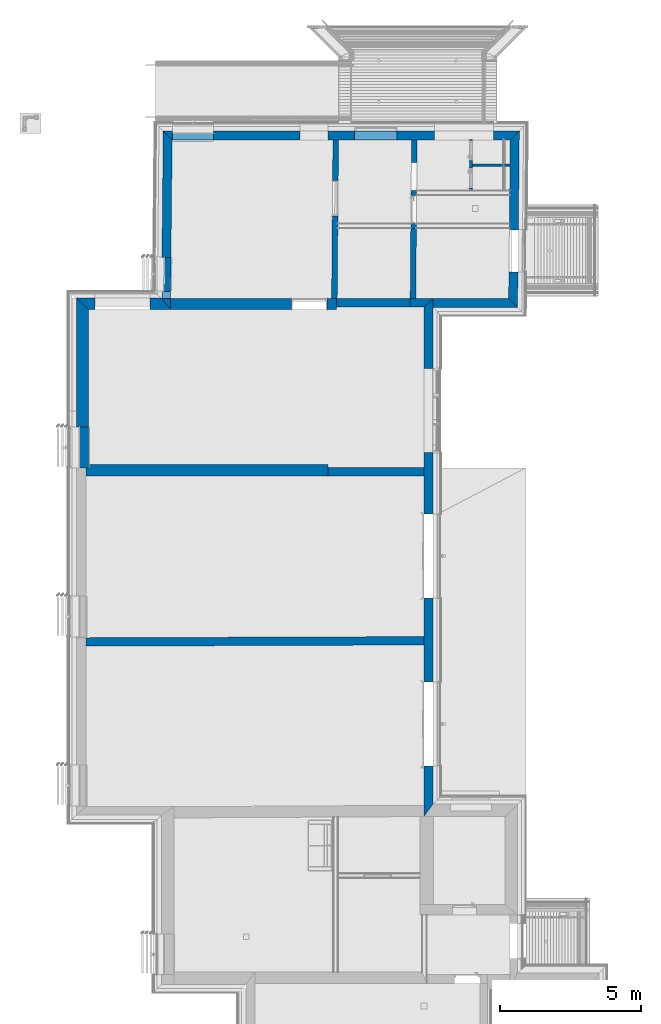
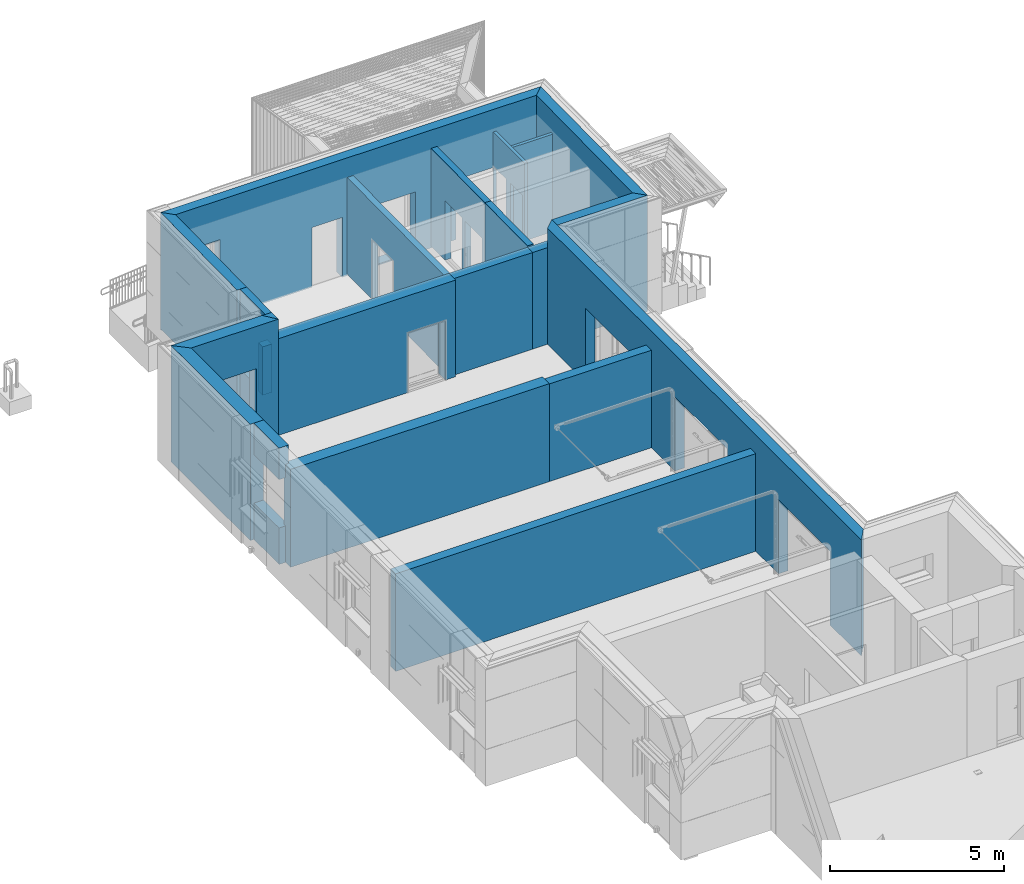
# One storey, part 25 of 418: 22 walls, 21 openings.
"""IFC2X3 building model written with IfcOpenShell, lengths in millimetres."""

from ifc_helpers import new_model, entity, si_unit, converted_unit, derived_unit, money_unit, direction, frame, origin_with_axes, origin_2d_with_axis, place, context, subcontext, project, spatial, polyline, rectangle, outline, extrude, material, layer, layer_set, layer_usage, type_object, element, save


model = new_model("IFC2X3")

# Units and contexts
model_context = context("Model", 3, precision=0.01, world=origin_with_axes(), true_north=direction((0.0, 1.0)))
body_context = subcontext(model_context, "Body", "Model", "MODEL_VIEW")
ifc_project = project(units=[si_unit("LENGTHUNIT", "METRE", prefix="MILLI"), si_unit("AREAUNIT", "SQUARE_METRE"), si_unit("VOLUMEUNIT", "CUBIC_METRE"), converted_unit("PLANEANGLEUNIT", "DEGREE", entity("IfcPlaneAngleMeasure", 0.0174532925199), si_unit("PLANEANGLEUNIT", "RADIAN"), dimensions=[0, 0, 0, 0, 0, 0, 0]), si_unit("SOLIDANGLEUNIT", "STERADIAN"), money_unit("EUR"), converted_unit("TIMEUNIT", "Year", entity("IfcTimeMeasure", 31556926.0), si_unit("TIMEUNIT", "SECOND"), dimensions=[0, 0, 1, 0, 0, 0, 0]), si_unit("MASSUNIT", "GRAM", prefix="KILO"), si_unit("THERMODYNAMICTEMPERATUREUNIT", "DEGREE_CELSIUS"), si_unit("LUMINOUSINTENSITYUNIT", "LUMEN"), si_unit("ENERGYUNIT", "JOULE", prefix="MEGA"), derived_unit("THERMALCONDUCTANCEUNIT", [(si_unit("POWERUNIT", "WATT"), 1), (si_unit("LENGTHUNIT", "METRE"), -1), (si_unit("THERMODYNAMICTEMPERATUREUNIT", "KELVIN"), -1)]), derived_unit("SPECIFICHEATCAPACITYUNIT", [(si_unit("ENERGYUNIT", "JOULE"), 1), (si_unit("MASSUNIT", "GRAM", prefix="KILO"), -1), (si_unit("THERMODYNAMICTEMPERATUREUNIT", "KELVIN"), -1)]), derived_unit("MASSDENSITYUNIT", [(si_unit("MASSUNIT", "GRAM", prefix="KILO"), 1), (si_unit("VOLUMEUNIT", "CUBIC_METRE"), -1)])], contexts=[model_context])

# Site, building, storey
site_placement = place(None, origin_with_axes())
site = spatial("IfcSite", under=ifc_project, at=site_placement, Name="Paldiski mnt 245/1, Tallinn, Harjumaa", CompositionType="COMPLEX")
building_placement = place(site_placement, origin_with_axes())
building = spatial("IfcBuilding", under=site, at=building_placement, Name="RKAS Hoone üldnimetus (kasutust iseloomustav) -> IFC Project Manager -> SOLIBRI", CompositionType="ELEMENT")
storey_placement = place(building_placement, origin_with_axes())
storey = spatial("IfcBuildingStorey", under=building, at=storey_placement, Name="Esimene korrus", CompositionType="ELEMENT", Elevation=0.0)

# Wall, opening
ifc_material_1 = material(Name="Olemasolev silikaltsiitplokk")
ifc_layer_1 = layer(ifc_material_1, 390.0, ventilated="UNKNOWN")
ifc_layer_set_1 = layer_set([ifc_layer_1], Name="Olemasolev silikaltsiitplokk 390")
ifc_layer_usage_1 = layer_usage(ifc_layer_set_1, "AXIS2", "NEGATIVE", 0.0)
wall_type_1 = type_object("IfcWallType", Name="Olemasolev silikaltsiitplokk 390", PredefinedType="NOTDEFINED")
wall_1_placement = place(storey_placement, frame((-59386.0680847, 30139.8287244, 0.0), z_axis=(0.0, 0.0, 1.0), x_axis=(1.0, 0.0, 0.0)))
wall_1 = element("IfcWallStandardCase", 1, at=wall_1_placement, inside=storey, type_object=wall_type_1, material=ifc_layer_usage_1, Name="SS-02", context=body_context, shape_type="SweptSolid", body=[
    extrude(outline(polyline([(-3.93191533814, -390.0), (5896.06808466, -390.0), (5896.06808466, 0.0), (0.0, 0.0), (-3.93191533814, -390.0)])), origin_with_axes(), (0.0, 0.0, 1.0), 3400.80687192),
])
opening_1_placement = place(wall_1_placement, frame((4926.11364736, -1.13686837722e-10, 0.0), z_axis=(0.0, 0.0, 1.0), x_axis=(1.0, 0.0, 0.0)))
element("IfcOpeningElement", 2, at=opening_1_placement, cuts=wall_1, Name="SU-12v", context=body_context, shape_type="SweptSolid", body=[
    extrude(rectangle(XDim=1250.0, YDim=2100.0, at=origin_2d_with_axis()), frame((0.0, -390.0, 1050.0), z_axis=(0.0, 1.0, 0.0), x_axis=(1.0, 0.0, 0.0)), (0.0, 0.0, 1.0), 1170.0),
    extrude(rectangle(XDim=1324.0, YDim=2137.0, at=origin_2d_with_axis()), frame((0.0, -390.0, 1068.5), z_axis=(0.0, 1.0, 0.0), x_axis=(1.0, 0.0, 0.0)), (0.0, 0.0, -1.0), 390.0),
    extrude(rectangle(XDim=1324.0, YDim=2137.0, at=origin_2d_with_axis()), frame((0.0, 1.13686837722e-10, 1068.5), z_axis=(0.0, -1.0, 0.0), x_axis=(1.0, 0.0, 0.0)), (0.0, 0.0, -1.0), 390.0),
])

ifc_layer_2 = layer(ifc_material_1, 440.0, ventilated="UNKNOWN")
ifc_layer_set_2 = layer_set([ifc_layer_2], Name="Olemasolev silikaltsiitplokk 440")
ifc_layer_usage_2 = layer_usage(ifc_layer_set_2, "AXIS2", "POSITIVE", 0.0)
wall_type_2 = type_object("IfcWallType", Name="Olemasolev silikaltsiitplokk 440", PredefinedType="NOTDEFINED")
wall_2_placement = place(storey_placement, frame((-62290.0, 24129.3310636, 0.0), z_axis=(0.0, 0.0, 1.0), x_axis=(0.0, 1.0, 0.0)))
wall_2 = element("IfcWallStandardCase", 3, at=wall_2_placement, inside=storey, type_object=wall_type_2, material=ifc_layer_usage_2, Name="VS-03", context=body_context, shape_type="SweptSolid", body=[
    extrude(outline(polyline([(0.0, 0.0), (5620.49766071, 0.0), (6020.49766071, 440.0), (0.0, 440.0), (0.0, 0.0)])), origin_with_axes(), (0.0, 0.0, 1.0), 4090.0),
])
opening_2_placement = place(wall_2_placement, frame((-24129.3310636, -62290.0, 0.0), z_axis=(0.0, 0.0, 1.0), x_axis=(0.0, -1.0, 0.0)))
element("IfcOpeningElement", 4, at=opening_2_placement, cuts=wall_2, Name="VS-03", ObjectType="OPENING", context=body_context, shape_type="SweptSolid", body=[
    extrude(rectangle(XDim=1450.0, YDim=4140.0001049, at=origin_2d_with_axis()), frame((-62290.0, 24854.3310636, 2019.99994755), z_axis=(1.0, 0.0, 0.0), x_axis=(0.0, 1.0, 0.0)), (0.0, 0.0, -1.0), 880.0),
])

# Walls
ifc_material_2 = material(Name="BAUROC CLASSIC 3 MPa kergplokk")
ifc_layer_3 = layer(ifc_material_2, 300.0, ventilated="UNKNOWN")
ifc_layer_set_3 = layer_set([ifc_layer_3], Name="BAUROC CLASSIC 3 MPa kergplokk 300")
ifc_layer_usage_3 = layer_usage(ifc_layer_set_3, "AXIS2", "POSITIVE", 0.0)
wall_type_3 = type_object("IfcWallType", Name="BAUROC CLASSIC 3 MPa kergplokk 300", PredefinedType="NOTDEFINED")
wall_3_placement = place(storey_placement, frame((-59383.502776, 30139.8287244, 1280.0), z_axis=(0.0, 0.0, 1.0), x_axis=(0.0, 1.0, 0.0)))
element("IfcWallStandardCase", 5, at=wall_3_placement, inside=storey, type_object=wall_type_3, material=ifc_layer_usage_3, Name="VS-08", context=body_context, shape_type="SweptSolid", body=[
    extrude(outline(polyline([(0.0, 0.0), (254.455201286, 0.0), (254.455201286, 300.0), (0.0, 300.0), (0.0, 0.0)])), origin_with_axes(), (0.0, 0.0, 1.0), 1700.0),
])
ifc_layer_4 = layer(ifc_material_1, 200.0, ventilated="UNKNOWN")
ifc_layer_set_4 = layer_set([ifc_layer_4], Name="Olemasolev silikaltsiitplokk 200")
ifc_layer_usage_4 = layer_usage(ifc_layer_set_4, "AXIS2", "NEGATIVE", 0.0)
wall_type_4 = type_object("IfcWallType", Name="Olemasolev silikaltsiitplokk 200", PredefinedType="NOTDEFINED")
wall_4_placement = place(storey_placement, frame((-50879.9544371, 30139.8287499, 0.0), z_axis=(0.0, 0.0, 1.0), x_axis=(0.00837214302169, 0.999964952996, 0.0)))
element("IfcWallStandardCase", 6, at=wall_4_placement, inside=storey, type_object=wall_type_4, material=ifc_layer_usage_4, Name="SS-03", context=body_context, shape_type="SweptSolid", body=[
    extrude(outline(polyline([(1.67446174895, -200.0), (2490.48479156, -200.0), (2490.48479156, 0.0), (-2.55411407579e-05, 0.0), (1.67446174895, -200.0)])), origin_with_axes(), (0.0, 0.0, 1.0), 3451.03338617),
])

# Wall, opening
ifc_layer_usage_5 = layer_usage(ifc_layer_set_4, "AXIS2", "NEGATIVE", 0.0)
wall_5_placement = place(storey_placement, frame((-53669.9544373, 30139.8287244, 0.0), z_axis=(0.0, 0.0, 1.0), x_axis=(0.00837214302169, 0.999964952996, 0.0)))
wall_5 = element("IfcWallStandardCase", 7, at=wall_5_placement, inside=storey, type_object=wall_type_4, material=ifc_layer_usage_5, Name="SS-03", context=body_context, shape_type="SweptSolid", body=[
    extrude(outline(polyline([(1.67448729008, -200.0), (5631.87180884, -200.0), (5630.19732155, 0.0), (0.0, 0.0), (1.67448729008, -200.0)])), origin_with_axes(), (0.0, 0.0, 1.0), 3400.80687192),
])
opening_3_placement = place(wall_5_placement, frame((3556.69180579, 0.0, 0.0), z_axis=(0.0, 0.0, 1.0), x_axis=(1.0, 0.0, 0.0)))
element("IfcOpeningElement", 8, at=opening_3_placement, cuts=wall_5, Name="SU-12v", context=body_context, shape_type="SweptSolid", body=[
    extrude(rectangle(XDim=1250.0, YDim=2100.0, at=origin_2d_with_axis()), frame((0.0, 200.0, 1050.0), z_axis=(0.0, -1.0, 0.0), x_axis=(-1.0, 0.0, 0.0)), (0.0, 0.0, 1.0), 600.0),
    extrude(rectangle(XDim=1324.0, YDim=2137.0, at=origin_2d_with_axis()), frame((0.0, 0.0, 1068.5), z_axis=(0.0, -1.0, 0.0), x_axis=(-1.0, 0.0, 0.0)), (0.0, 0.0, -1.0), 200.0),
    extrude(rectangle(XDim=1324.0, YDim=2137.0, at=origin_2d_with_axis()), frame((0.0, -200.0, 1068.5), z_axis=(0.0, 1.0, 0.0), x_axis=(-1.0, 0.0, 0.0)), (0.0, 0.0, -1.0), 200.0),
])

# Wall, openings
ifc_layer_usage_6 = layer_usage(ifc_layer_set_4, "AXIS2", "NEGATIVE", 0.0)
wall_6_placement = place(storey_placement, frame((-50859.1037422, 32630.2262574, 0.0), z_axis=(0.0, 0.0, 1.0), x_axis=(0.00837214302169, 0.999964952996, 0.0)))
wall_6 = element("IfcWallStandardCase", 9, at=wall_6_placement, inside=storey, type_object=wall_type_4, material=ifc_layer_usage_6, Name="SS-03", context=body_context, shape_type="SweptSolid", body=[
    extrude(outline(polyline([(0.0, -200.0), (3141.38699174, -200.0), (3139.71250445, 0.0), (0.0, 0.0), (0.0, -200.0)])), origin_with_axes(), (0.0, 0.0, 1.0), 3451.03338617),
])
opening_4_placement = place(wall_6_placement, frame((671.317946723, 0.0, 0.0), z_axis=(0.0, 0.0, 1.0), x_axis=(1.0, 0.0, 0.0)))
element("IfcOpeningElement", 10, at=opening_4_placement, cuts=wall_6, Name="SU-05p", context=body_context, shape_type="SweptSolid", body=[
    extrude(rectangle(XDim=1000.0, YDim=2100.0, at=origin_2d_with_axis()), frame((0.0, -200.0, 1050.0), z_axis=(0.0, -1.0, 0.0), x_axis=(-1.0, 0.0, 0.0)), (0.0, 0.0, -1.0), 600.0),
    extrude(rectangle(XDim=1074.0, YDim=2137.0, at=origin_2d_with_axis()), frame((0.0, -200.0, 1068.5), z_axis=(0.0, -1.0, 0.0), x_axis=(-1.0, 0.0, 0.0)), (0.0, 0.0, 1.0), 200.0),
    extrude(rectangle(XDim=1074.0, YDim=2137.0, at=origin_2d_with_axis()), frame((0.0, 0.0, 1068.5), z_axis=(0.0, 1.0, 0.0), x_axis=(-1.0, 0.0, 0.0)), (0.0, 0.0, 1.0), 200.0),
])
opening_5_placement = place(wall_6_placement, frame((1841.32390492, 0.0, 0.0), z_axis=(0.0, 0.0, 1.0), x_axis=(1.0, 0.0, 0.0)))
element("IfcOpeningElement", 11, at=opening_5_placement, cuts=wall_6, Name="AVA", context=body_context, shape_type="SweptSolid", body=[
    extrude(rectangle(XDim=1000.0, YDim=2100.0, at=origin_2d_with_axis()), frame((0.0, 0.0, 1050.0), z_axis=(0.0, -1.0, 0.0), x_axis=(1.0, 0.0, 0.0)), (0.0, 0.0, -1.0), 200.0),
    extrude(rectangle(XDim=1000.0, YDim=2100.0, at=origin_2d_with_axis()), frame((0.0, 0.0, 1050.0), z_axis=(0.0, 1.0, 0.0), x_axis=(1.0, 0.0, 0.0)), (0.0, 0.0, -1.0), 200.0),
])

# Wall
ifc_material_3 = material(Name="BAUROC Acoustic")
ifc_layer_5 = layer(ifc_material_3, 100.0, ventilated="UNKNOWN")
ifc_layer_set_5 = layer_set([ifc_layer_5], Name="SS-11")
ifc_layer_usage_7 = layer_usage(ifc_layer_set_5, "AXIS2", "POSITIVE", -100.0)
wall_type_5 = type_object("IfcWallType", Name="SS-11 100", PredefinedType="NOTDEFINED")
wall_7_placement = place(storey_placement, frame((-47338.294549, 34819.9150652, -130.0), z_axis=(0.0, 0.0, 1.0), x_axis=(-1.0, 0.0, 0.0)))
element("IfcWallStandardCase", 12, at=wall_7_placement, inside=storey, type_object=wall_type_5, material=ifc_layer_usage_7, Name="SS-11", context=body_context, shape_type="SweptSolid", body=[
    extrude(outline(polyline([(0.0, -100.0), (1332.73688864, -100.0), (1332.73688864, 0.0), (0.0, 0.0), (0.0, -100.0)])), origin_with_axes(), (0.0, 0.0, 1.0), 3430.0),
])

# Wall, openings
ifc_layer_usage_8 = layer_usage(ifc_layer_set_5, "AXIS2", "POSITIVE", -100.0)
wall_8_placement = place(storey_placement, frame((-48671.0314376, 35789.8287244, -130.0), z_axis=(0.0, 0.0, 1.0), x_axis=(0.0, -1.0, 0.0)))
wall_8 = element("IfcWallStandardCase", 13, at=wall_8_placement, inside=storey, type_object=wall_type_5, material=ifc_layer_usage_8, Name="SS-11", context=body_context, shape_type="SweptSolid", body=[
    extrude(outline(polyline([(0.0, -100.0), (1820.0, -100.0), (1820.0, 0.0), (0.0, 0.0), (0.0, -100.0)])), origin_with_axes(), (0.0, 0.0, 1.0), 3430.0),
])
opening_6_placement = place(wall_8_placement, frame((400.0, 0.0, 130.0), z_axis=(0.0, 0.0, 1.0), x_axis=(1.0, 0.0, 0.0)))
element("IfcOpeningElement", 14, at=opening_6_placement, cuts=wall_8, Name="SU-17v", context=body_context, shape_type="SweptSolid", body=[
    extrude(rectangle(XDim=700.0, YDim=2100.0, at=origin_2d_with_axis()), frame((0.0, -100.0, 1050.0), z_axis=(0.0, 1.0, 0.0), x_axis=(-1.0, 0.0, 0.0)), (0.0, 0.0, 1.0), 300.0),
    extrude(rectangle(XDim=774.0, YDim=2137.0, at=origin_2d_with_axis()), frame((0.0, -100.0, 1068.5), z_axis=(0.0, 1.0, 0.0), x_axis=(-1.0, 0.0, 0.0)), (0.0, 0.0, -1.0), 100.0),
])
opening_7_placement = place(wall_8_placement, frame((1369.91365911, 0.0, 130.0), z_axis=(0.0, 0.0, 1.0), x_axis=(1.0, 0.0, 0.0)))
element("IfcOpeningElement", 15, at=opening_7_placement, cuts=wall_8, Name="SU-17p", context=body_context, shape_type="SweptSolid", body=[
    extrude(rectangle(XDim=700.0, YDim=2100.0, at=origin_2d_with_axis()), frame((0.0, -100.0, 1050.0), z_axis=(0.0, -1.0, 0.0), x_axis=(1.0, 0.0, 0.0)), (0.0, 0.0, -1.0), 300.0),
    extrude(rectangle(XDim=774.0, YDim=2137.0, at=origin_2d_with_axis()), frame((0.0, -100.0, 1068.5), z_axis=(0.0, -1.0, 0.0), x_axis=(1.0, 0.0, 0.0)), (0.0, 0.0, 1.0), 100.0),
])

# Walls
ifc_layer_6 = layer(ifc_material_1, 300.0, ventilated="UNKNOWN")
ifc_layer_set_6 = layer_set([ifc_layer_6], Name="Olemasolev silikaltsiitplokk 300")
ifc_layer_usage_9 = layer_usage(ifc_layer_set_6, "AXIS2", "NEGATIVE", 0.0)
wall_type_6 = type_object("IfcWallType", Name="Olemasolev silikaltsiitplokk 300", PredefinedType="NOTDEFINED")
wall_9_placement = place(storey_placement, frame((-53790.0, 24139.8287244, 0.0), z_axis=(0.0, 0.0, 1.0), x_axis=(1.0, 0.0, 0.0)))
element("IfcWallStandardCase", 16, at=wall_9_placement, inside=storey, type_object=wall_type_6, material=ifc_layer_usage_9, Name="SS-02", context=body_context, shape_type="SweptSolid", body=[
    extrude(outline(polyline([(0.0, -300.0), (3400.0, -300.0), (3400.0, 0.0), (0.0, 0.0), (0.0, -300.0)])), origin_with_axes(), (0.0, 0.0, 1.0), 3432.41919496),
])
ifc_layer_usage_10 = layer_usage(ifc_layer_set_6, "AXIS2", "NEGATIVE", 0.0)
wall_10_placement = place(storey_placement, frame((-62390.0, 18096.4054606, 0.0), z_axis=(0.0, 0.0, 1.0), x_axis=(0.999993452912, 0.00361858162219, 0.0)))
element("IfcWallStandardCase", 17, at=wall_10_placement, inside=storey, type_object=wall_type_6, material=ifc_layer_usage_10, Name="SS-02", context=body_context, shape_type="SweptSolid", body=[
    extrude(outline(polyline([(-1.08558159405, -300.0), (11999.6254134, -300.0), (11999.6254134, 0.0), (0.0, 0.0), (-1.08558159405, -300.0)])), origin_with_axes(), (0.0, 0.0, 1.0), 3432.41919522),
])
ifc_layer_usage_11 = layer_usage(ifc_layer_set_6, "AXIS2", "NEGATIVE", 0.0)
wall_11_placement = place(storey_placement, frame((-53490.0, 30139.8287244, 0.0), z_axis=(0.0, 0.0, 1.0), x_axis=(1.0, 0.0, 0.0)))
element("IfcWallStandardCase", 18, at=wall_11_placement, inside=storey, type_object=wall_type_6, material=ifc_layer_usage_11, Name="SS-02", context=body_context, shape_type="SweptSolid", body=[
    extrude(outline(polyline([(0.0, -300.0), (2610.04556292, -300.0), (2610.04556292, 0.0), (0.0, 0.0), (0.0, -300.0)])), origin_with_axes(), (0.0, 0.0, 1.0), 3400.80687192),
])
ifc_layer_usage_12 = layer_usage(ifc_layer_set_6, "AXIS2", "NEGATIVE", 0.0)
wall_12_placement = place(storey_placement, frame((-50879.9544371, 30139.8287244, 0.0), z_axis=(0.0, 0.0, 1.0), x_axis=(1.0, 0.0, 0.0)))
element("IfcWallStandardCase", 19, at=wall_12_placement, inside=storey, type_object=wall_type_6, material=ifc_layer_usage_12, Name="SS-02", context=body_context, shape_type="SweptSolid", body=[
    extrude(outline(polyline([(0.0, -300.0), (489.954437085, -300.0), (809.954437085, 0.0), (0.0, 0.0), (0.0, -300.0)])), origin_with_axes(), (0.0, 0.0, 1.0), 3400.80687192),
])
ifc_layer_7 = layer(ifc_material_1, 400.0, ventilated="UNKNOWN")
ifc_layer_set_7 = layer_set([ifc_layer_7], Name="Olemasolev silikaltsiitplokk 400")
ifc_layer_usage_13 = layer_usage(ifc_layer_set_7, "AXIS2", "NEGATIVE", 0.0)
wall_type_7 = type_object("IfcWallType", Name="Olemasolev silikaltsiitplokk 400", PredefinedType="NOTDEFINED")
wall_13_placement = place(storey_placement, frame((-62390.0000031, 24239.3310636, 0.0), z_axis=(0.0, 0.0, 1.0), x_axis=(1.0, 0.0, 0.0)))
element("IfcWallStandardCase", 20, at=wall_13_placement, inside=storey, type_object=wall_type_7, material=ifc_layer_usage_13, Name="SS-02", context=body_context, shape_type="SweptSolid", body=[
    extrude(outline(polyline([(0.0, -400.0), (8600.00000307, -400.0), (8600.00000307, 0.0), (0.0, 0.0), (0.0, -400.0)])), origin_with_axes(), (0.0, 0.0, 1.0), 3444.21219275),
])

# Wall, opening
ifc_layer_usage_14 = layer_usage(ifc_layer_set_7, "AXIS2", "POSITIVE", 0.0)
wall_14_placement = place(storey_placement, frame((-62290.0, 29749.8287244, 0.0), z_axis=(0.0, 0.0, 1.0), x_axis=(1.0, 0.0, 0.0)))
wall_14 = element("IfcWallStandardCase", 21, at=wall_14_placement, inside=storey, type_object=wall_type_7, material=ifc_layer_usage_14, Name="VS-03", context=body_context, shape_type="SweptSolid", body=[
    extrude(outline(polyline([(0.0, 0.0), (2900.0, 0.0), (2584.01647115, 400.0), (-440.0, 400.0), (0.0, 0.0)])), origin_with_axes(), (0.0, 0.0, 1.0), 4090.0),
])
opening_8_placement = place(wall_14_placement, frame((1205.0, 0.0, 0.0), z_axis=(0.0, 0.0, 1.0), x_axis=(1.0, 0.0, 0.0)))
element("IfcOpeningElement", 22, at=opening_8_placement, cuts=wall_14, Name="AVA", context=body_context, shape_type="SweptSolid", body=[
    extrude(rectangle(XDim=1950.0, YDim=2600.0, at=origin_2d_with_axis()), frame((0.0, 400.0, 1300.0), z_axis=(0.0, -1.0, 0.0), x_axis=(1.0, 0.0, 0.0)), (0.0, 0.0, -1.0), 400.0),
    extrude(rectangle(XDim=1950.0, YDim=2600.0, at=origin_2d_with_axis()), frame((0.0, 400.0, 1300.0), z_axis=(0.0, 1.0, 0.0), x_axis=(1.0, 0.0, 0.0)), (0.0, 0.0, -1.0), 400.0),
])

ifc_layer_8 = layer(ifc_material_1, 320.0, ventilated="UNKNOWN")
ifc_layer_set_8 = layer_set([ifc_layer_8], Name="Olemasolev silikaltsiitplokk 320")
ifc_layer_usage_15 = layer_usage(ifc_layer_set_8, "AXIS2", "NEGATIVE", 0.0)
wall_type_8 = type_object("IfcWallType", Name="Olemasolev silikaltsiitplokk 320", PredefinedType="NOTDEFINED")
wall_15_placement = place(storey_placement, frame((-47385.4582399, 30139.8287244, 0.0), z_axis=(0.0, 0.0, 1.0), x_axis=(0.0100813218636, 0.999949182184, 0.0)))
wall_15 = element("IfcWallStandardCase", 23, at=wall_15_placement, inside=storey, type_object=wall_type_8, material=ifc_layer_usage_15, Name="VS-03", context=body_context, shape_type="SweptSolid", body=[
    extrude(outline(polyline([(-316.790075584, -320.0), (5953.52856832, -320.0), (5630.28611885, 0.0), (0.0, 0.0), (-316.790075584, -320.0)])), origin_with_axes(), (0.0, 0.0, 1.0), 4090.0),
])
opening_9_placement = place(wall_15_placement, frame((1690.52409606, 0.0, 0.0), z_axis=(0.0, 0.0, 1.0), x_axis=(1.0, 0.0, 0.0)))
element("IfcOpeningElement", 24, at=opening_9_placement, cuts=wall_15, Name="AVA", context=body_context, shape_type="SweptSolid", body=[
    extrude(rectangle(XDim=1500.0, YDim=2100.0, at=origin_2d_with_axis()), frame((0.0, -320.0, 1050.0), z_axis=(0.0, 1.0, 0.0), x_axis=(1.0, 0.0, 0.0)), (0.0, 0.0, -1.0), 320.0),
    extrude(rectangle(XDim=1500.0, YDim=2100.0, at=origin_2d_with_axis()), frame((0.0, -320.0, 1050.0), z_axis=(0.0, -1.0, 0.0), x_axis=(1.0, 0.0, 0.0)), (0.0, 0.0, -1.0), 320.0),
])

ifc_layer_usage_16 = layer_usage(ifc_layer_set_8, "AXIS2", "POSITIVE", 0.0)
wall_16_placement = place(storey_placement, frame((-59390.0, 29749.8287244, 0.0), z_axis=(0.0, 0.0, 1.0), x_axis=(0.0100813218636, 0.999949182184, 0.0)))
wall_16 = element("IfcWallStandardCase", 25, at=wall_16_placement, inside=storey, type_object=wall_type_8, material=ifc_layer_usage_16, Name="VS-03", context=body_context, shape_type="SweptSolid", body=[
    extrude(outline(polyline([(0.0, 0.0), (6020.3059388, 0.0), (6337.09601439, 320.0), (396.794141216, 320.0), (0.0, 0.0)])), origin_with_axes(), (0.0, 0.0, 1.0), 4090.0),
])
opening_10_placement = place(wall_16_placement, frame((-29149.5871975, -59686.8995286, 0.0), z_axis=(0.0, 0.0, 1.0), x_axis=(0.0100813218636, -0.999949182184, 0.0)))
element("IfcOpeningElement", 26, at=opening_10_placement, cuts=wall_16, Name="VS-03", ObjectType="OPENING", context=body_context, shape_type="SweptSolid", body=[
    extrude(rectangle(XDim=1452.89791746, YDim=4140.0001049, at=origin_2d_with_axis()), frame((-59378.6729148, 30873.3430585, 2070.00005245), z_axis=(0.999949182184, -0.0100813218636, 0.0), x_axis=(0.0100813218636, 0.999949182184, 0.0)), (0.0, 0.0, -1.0), 719.347325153),
])

# Wall
ifc_layer_usage_17 = layer_usage(ifc_layer_set_8, "AXIS2", "NEGATIVE", 0.0)
wall_17_placement = place(storey_placement, frame((-50070.0, 30139.8287244, 0.0), z_axis=(0.0, 0.0, 1.0), x_axis=(1.0, 0.0, 0.0)))
element("IfcWallStandardCase", 27, at=wall_17_placement, inside=storey, type_object=wall_type_8, material=ifc_layer_usage_17, Name="VS-03", context=body_context, shape_type="SweptSolid", body=[
    extrude(outline(polyline([(0.0, -320.0), (3001.33183571, -320.0), (2684.54176013, 0.0), (0.0, 0.0), (0.0, -320.0)])), origin_with_axes(), (0.0, 0.0, 1.0), 4090.0),
])

# Wall, openings
ifc_layer_usage_18 = layer_usage(ifc_layer_set_8, "AXIS2", "NEGATIVE", 0.0)
wall_18_placement = place(storey_placement, frame((-50390.0, 11749.8287244, 0.0), z_axis=(0.0, 0.0, 1.0), x_axis=(0.0, 1.0, 0.0)))
wall_18 = element("IfcWallStandardCase", 28, at=wall_18_placement, inside=storey, type_object=wall_type_8, material=ifc_layer_usage_18, Name="VS-03", context=body_context, shape_type="SweptSolid", body=[
    extrude(outline(polyline([(440.0, -320.0), (18390.0, -320.0), (18090.0, 0.0), (0.0, 0.0), (440.0, -320.0)])), origin_with_axes(), (0.0, 0.0, 1.0), 4090.0),
])
opening_11_placement = place(wall_18_placement, frame((3289.99803586, 0.0, 0.0), z_axis=(0.0, 0.0, 1.0), x_axis=(1.0, 0.0, 0.0)))
element("IfcOpeningElement", 29, at=opening_11_placement, cuts=wall_18, Name="AVA", context=body_context, shape_type="SweptSolid", body=[
    extrude(rectangle(XDim=2980.0, YDim=2600.0, at=origin_2d_with_axis()), frame((0.0, -19.9999999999, 1300.0), z_axis=(0.0, 1.0, 0.0), x_axis=(1.0, 0.0, 0.0)), (0.0, 0.0, -1.0), 620.0),
    extrude(rectangle(XDim=2980.0, YDim=2600.0, at=origin_2d_with_axis()), frame((0.0, -19.9999999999, 1300.0), z_axis=(0.0, -1.0, 0.0), x_axis=(1.0, 0.0, 0.0)), (0.0, 0.0, -1.0), 620.0),
])
opening_12_placement = place(wall_18_placement, frame((9246.99991489, -2.0605739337e-10, 0.0), z_axis=(0.0, 0.0, 1.0), x_axis=(1.0, 0.0, 0.0)))
element("IfcOpeningElement", 30, at=opening_12_placement, cuts=wall_18, Name="AVA", context=body_context, shape_type="SweptSolid", body=[
    extrude(rectangle(XDim=2980.0, YDim=2600.0, at=origin_2d_with_axis()), frame((0.0, -19.9999999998, 1300.0), z_axis=(0.0, 1.0, 0.0), x_axis=(1.0, 0.0, 0.0)), (0.0, 0.0, -1.0), 620.0),
    extrude(rectangle(XDim=2980.0, YDim=2600.0, at=origin_2d_with_axis()), frame((0.0, -19.9999999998, 1300.0), z_axis=(0.0, -1.0, 0.0), x_axis=(1.0, 0.0, 0.0)), (0.0, 0.0, -1.0), 620.0),
])
opening_13_placement = place(wall_18_placement, frame((14406.9999149, -3.19744231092e-10, 0.0), z_axis=(0.0, 0.0, 1.0), x_axis=(1.0, 0.0, 0.0)))
element("IfcOpeningElement", 31, at=opening_13_placement, cuts=wall_18, Name="AVA", context=body_context, shape_type="SweptSolid", body=[
    extrude(rectangle(XDim=2980.0, YDim=2600.0, at=origin_2d_with_axis()), frame((0.0, -19.9999999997, 1300.0), z_axis=(0.0, 1.0, 0.0), x_axis=(1.0, 0.0, 0.0)), (0.0, 0.0, -1.0), 620.0),
    extrude(rectangle(XDim=2980.0, YDim=2600.0, at=origin_2d_with_axis()), frame((0.0, -19.9999999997, 1300.0), z_axis=(0.0, -1.0, 0.0), x_axis=(1.0, 0.0, 0.0)), (0.0, 0.0, -1.0), 620.0),
])

# Wall, opening
ifc_layer_usage_19 = layer_usage(ifc_layer_set_8, "AXIS2", "NEGATIVE", 0.0)
wall_19_placement = place(storey_placement, frame((-62289.9999508, 25579.3310636, 0.0), z_axis=(0.0, 0.0, 1.0), x_axis=(0.0, -1.0, 0.0)))
wall_19 = element("IfcWallStandardCase", 32, at=wall_19_placement, inside=storey, type_object=wall_type_8, material=ifc_layer_usage_19, Name="VS-05", context=body_context, shape_type="SweptSolid", body=[
    extrude(outline(polyline([(0.0, -320.0), (1450.0, -320.0), (1450.0, 0.0), (0.0, 0.0), (0.0, -320.0)])), origin_with_axes(), (0.0, 0.0, 1.0), 4090.0),
])
opening_14_placement = place(wall_19_placement, frame((724.999997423, 0.0, 1280.0), z_axis=(0.0, 0.0, 1.0), x_axis=(1.0, 0.0, 0.0)))
element("IfcOpeningElement", 33, at=opening_14_placement, cuts=wall_19, Name="AVA", context=body_context, shape_type="SweptSolid", body=[
    extrude(rectangle(XDim=1450.0, YDim=1700.0, at=origin_2d_with_axis()), frame((0.0, -220.0, 850.0), z_axis=(0.0, 1.0, 0.0), x_axis=(1.0, 0.0, 0.0)), (0.0, 0.0, -1.0), 420.0),
    extrude(rectangle(XDim=1450.0, YDim=1700.0, at=origin_2d_with_axis()), frame((0.0, -220.0, 850.0), z_axis=(0.0, -1.0, 0.0), x_axis=(1.0, 0.0, 0.0)), (0.0, 0.0, -1.0), 420.0),
])

# Wall, openings
ifc_layer_usage_20 = layer_usage(ifc_layer_set_8, "AXIS2", "POSITIVE", 0.0)
wall_20_placement = place(storey_placement, frame((-59329.3073581, 35769.8287244, -50.0), z_axis=(0.0, 0.0, 1.0), x_axis=(1.0, 0.0, 0.0)))
wall_20 = element("IfcWallStandardCase", 34, at=wall_20_placement, inside=storey, type_object=wall_type_8, material=ifc_layer_usage_20, Name="VS-03", context=body_context, shape_type="SweptSolid", body=[
    extrude(outline(polyline([(0.0, 0.0), (12000.6098448, 0.0), (12323.8522943, 320.0), (-316.790075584, 320.0), (0.0, 0.0)])), origin_with_axes(), (0.0, 0.0, 1.0), 4140.0),
])
opening_15_placement = place(wall_20_placement, frame((745.000032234, 0.0, 1030.0), z_axis=(0.0, 0.0, 1.0), x_axis=(1.0, 0.0, 0.0)))
element("IfcOpeningElement", 35, at=opening_15_placement, cuts=wall_20, Name="AVA", context=body_context, shape_type="SweptSolid", body=[
    extrude(rectangle(XDim=1450.0, YDim=1700.0, at=origin_2d_with_axis()), frame((0.0, 10.0, 850.0), z_axis=(0.0, 1.0, 0.0), x_axis=(1.0, 0.0, 0.0)), (0.0, 0.0, -1.0), 330.0),
    extrude(rectangle(XDim=1450.0, YDim=1700.0, at=origin_2d_with_axis()), frame((0.0, 10.0, 850.0), z_axis=(0.0, -1.0, 0.0), x_axis=(1.0, 0.0, 0.0)), (0.0, 0.0, -1.0), 330.0),
])
opening_16_placement = place(wall_20_placement, frame((5040.60984479, -1.13686837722e-10, 0.0), z_axis=(0.0, 0.0, 1.0), x_axis=(1.0, 0.0, 0.0)))
element("IfcOpeningElement", 36, at=opening_16_placement, cuts=wall_20, Name="AVA", context=body_context, shape_type="SweptSolid", body=[
    extrude(rectangle(XDim=1000.0, YDim=2100.0, at=origin_2d_with_axis()), frame((0.0, 320.0, 1050.0), z_axis=(0.0, -1.0, 0.0), x_axis=(1.0, 0.0, 0.0)), (0.0, 0.0, -1.0), 320.0),
    extrude(rectangle(XDim=1000.0, YDim=2100.0, at=origin_2d_with_axis()), frame((0.0, 320.0, 1050.0), z_axis=(0.0, 1.0, 0.0), x_axis=(1.0, 0.0, 0.0)), (0.0, 0.0, -1.0), 320.0),
])
opening_17_placement = place(wall_20_placement, frame((7230.18644847, -1.63424829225e-10, 50.0), z_axis=(0.0, 0.0, 1.0), x_axis=(1.0, 0.0, 0.0)))
element("IfcOpeningElement", 37, at=opening_17_placement, cuts=wall_20, Name="AVA", context=body_context, shape_type="SweptSolid", body=[
    extrude(rectangle(XDim=1500.0, YDim=2100.0, at=origin_2d_with_axis()), frame((0.0, 320.0, 1050.0), z_axis=(0.0, -1.0, 0.0), x_axis=(1.0, 0.0, 0.0)), (0.0, 0.0, -1.0), 320.0),
    extrude(rectangle(XDim=1500.0, YDim=2100.0, at=origin_2d_with_axis()), frame((0.0, 320.0, 1050.0), z_axis=(0.0, 1.0, 0.0), x_axis=(1.0, 0.0, 0.0)), (0.0, 0.0, -1.0), 320.0),
])
opening_18_placement = place(wall_20_placement, frame((10360.1864485, -2.41584530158e-10, 0.0), z_axis=(0.0, 0.0, 1.0), x_axis=(1.0, 0.0, 0.0)))
element("IfcOpeningElement", 38, at=opening_18_placement, cuts=wall_20, Name="AVA", context=body_context, shape_type="SweptSolid", body=[
    extrude(rectangle(XDim=2080.0, YDim=2100.0, at=origin_2d_with_axis()), frame((0.0, 320.0, 1050.0), z_axis=(0.0, -1.0, 0.0), x_axis=(1.0, 0.0, 0.0)), (0.0, 0.0, -1.0), 320.0),
    extrude(rectangle(XDim=2080.0, YDim=2100.0, at=origin_2d_with_axis()), frame((0.0, 320.0, 1050.0), z_axis=(0.0, 1.0, 0.0), x_axis=(1.0, 0.0, 0.0)), (0.0, 0.0, -1.0), 320.0),
])
opening_19_placement = place(wall_20_placement, frame((59329.3073581, -35769.8287244, 50.0), z_axis=(0.0, 0.0, 1.0), x_axis=(1.0, 0.0, 0.0)))
element("IfcOpeningElement", 39, at=opening_19_placement, cuts=wall_20, Name="AVA", ObjectType="OPENING", context=body_context, shape_type="SweptSolid", body=[
    extrude(rectangle(XDim=1450.0, YDim=2570.0, at=origin_2d_with_axis()), frame((-58584.3073581, 35769.8287244, 1415.0), z_axis=(0.0, -1.0, 0.0), x_axis=(1.0, 0.0, 0.0)), (0.0, 0.0, -1.0), 640.0),
])

# Wall, opening
ifc_layer_9 = layer(ifc_material_1, 220.0, ventilated="UNKNOWN")
ifc_layer_set_9 = layer_set([ifc_layer_9], Name="Olemasolev silikaltsiitplokk 220")
ifc_layer_usage_21 = layer_usage(ifc_layer_set_9, "AXIS2", "NEGATIVE", 0.0)
wall_type_9 = type_object("IfcWallType", Name="Olemasolev silikaltsiitplokk 220", PredefinedType="NOTDEFINED")
wall_21_placement = place(storey_placement, frame((-57859.3073259, 35769.8286373, 0.0), z_axis=(0.0, 0.0, 1.0), x_axis=(-1.0, 0.0, 0.0)))
wall_21 = element("IfcWallStandardCase", 40, at=wall_21_placement, inside=storey, type_object=wall_type_9, material=ifc_layer_usage_21, Name="VS-05", context=body_context, shape_type="SweptSolid", body=[
    extrude(outline(polyline([(0.0, -220.0), (1450.0, -220.0), (1450.0, 0.0), (0.0, 0.0), (0.0, -220.0)])), origin_with_axes(), (0.0, 0.0, 1.0), 2700.0),
])
opening_20_placement = place(wall_21_placement, frame((725.0, 0.0, 980.0), z_axis=(0.0, 0.0, 1.0), x_axis=(1.0, 0.0, 0.0)))
element("IfcOpeningElement", 41, at=opening_20_placement, cuts=wall_21, Name="AVA", context=body_context, shape_type="SweptSolid", body=[
    extrude(rectangle(XDim=1450.0, YDim=1700.0, at=origin_2d_with_axis()), frame((0.0, -210.0, 850.0), z_axis=(0.0, 1.0, 0.0), x_axis=(1.0, 0.0, 0.0)), (0.0, 0.0, -1.0), 230.0),
    extrude(rectangle(XDim=1450.0, YDim=1700.0, at=origin_2d_with_axis()), frame((0.0, -210.0, 850.0), z_axis=(0.0, -1.0, 0.0), x_axis=(1.0, 0.0, 0.0)), (0.0, 0.0, -1.0), 230.0),
])

ifc_layer_usage_22 = layer_usage(ifc_layer_set_9, "AXIS2", "NEGATIVE", 0.0)
wall_22_placement = place(storey_placement, frame((-59371.3494155, 31599.7551013, 0.0), z_axis=(0.0, 0.0, 1.0), x_axis=(-0.0100813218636, -0.999949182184, 0.0)))
wall_22 = element("IfcWallStandardCase", 42, at=wall_22_placement, inside=storey, type_object=wall_type_9, material=ifc_layer_usage_22, Name="VS-05", context=body_context, shape_type="SweptSolid", body=[
    extrude(outline(polyline([(0.0, -220.0), (1460.00057035, -220.0), (1460.00057035, 0.0), (0.0, 0.0), (0.0, -220.0)])), origin_with_axes(), (0.0, 0.0, 1.0), 4090.0),
])
opening_21_placement = place(wall_22_placement, frame((726.10904196, 0.0, 1280.0), z_axis=(0.0, 0.0, 1.0), x_axis=(1.0, 0.0, 0.0)))
element("IfcOpeningElement", 43, at=opening_21_placement, cuts=wall_22, Name="AVA", context=body_context, shape_type="SweptSolid", body=[
    extrude(rectangle(XDim=1452.21808392, YDim=1700.0, at=origin_2d_with_axis()), frame((0.0, -120.0, 850.0), z_axis=(0.0, 1.0, 0.0), x_axis=(1.0, 0.0, 0.0)), (0.0, 0.0, -1.0), 320.0),
    extrude(rectangle(XDim=1452.21808392, YDim=1700.0, at=origin_2d_with_axis()), frame((0.0, -120.0, 850.0), z_axis=(0.0, -1.0, 0.0), x_axis=(1.0, 0.0, 0.0)), (0.0, 0.0, -1.0), 320.0),
])

save(model, "model.ifc")
